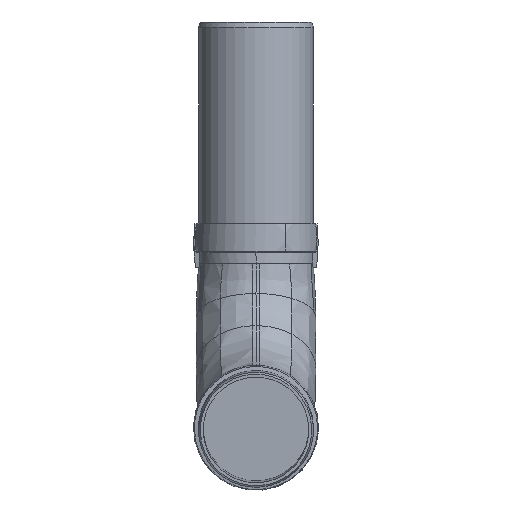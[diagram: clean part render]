
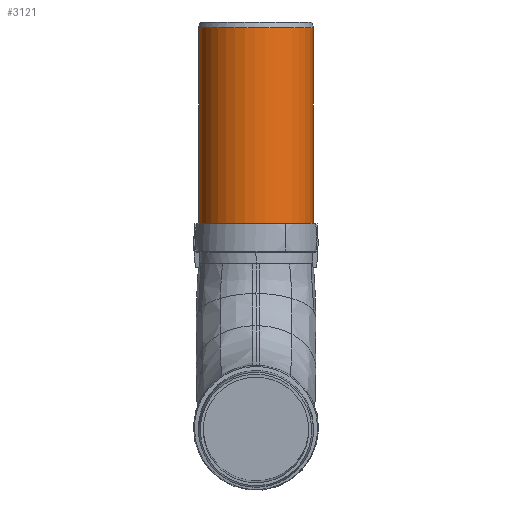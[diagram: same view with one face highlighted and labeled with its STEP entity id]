
A CAD part, front view. The second image highlights one B-rep face of the part: STEP entity #3121.
In plain terms, the highlighted cylindrical face has radius 55.1 mm (diameter 110.2 mm), a full revolution.
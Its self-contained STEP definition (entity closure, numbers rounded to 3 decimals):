
#25=CYLINDRICAL_SURFACE('',#3427,55.1);
#110=LINE('',#10713,#149);
#149=VECTOR('',#3916,55.1);
#602=FACE_OUTER_BOUND('',#779,.T.);
#779=EDGE_LOOP('',(#2358,#2359,#2360,#2361));
#886=CIRCLE('',#3250,55.1);
#895=CIRCLE('',#3263,55.1);
#1093=VERTEX_POINT('',#4823);
#1125=VERTEX_POINT('',#5808);
#1417=EDGE_CURVE('',#1093,#1093,#886,.T.);
#1458=EDGE_CURVE('',#1125,#1125,#895,.T.);
#1715=EDGE_CURVE('',#1093,#1125,#110,.T.);
#2358=ORIENTED_EDGE('',*,*,#1417,.F.);
#2359=ORIENTED_EDGE('',*,*,#1715,.T.);
#2360=ORIENTED_EDGE('',*,*,#1458,.T.);
#2361=ORIENTED_EDGE('',*,*,#1715,.F.);
#3121=ADVANCED_FACE('',(#602),#25,.T.);
#3250=AXIS2_PLACEMENT_3D('',#4824,#3529,#3530);
#3263=AXIS2_PLACEMENT_3D('',#5810,#3562,#3563);
#3427=AXIS2_PLACEMENT_3D('',#10712,#3914,#3915);
#3529=DIRECTION('center_axis',(0.,0.,1.));
#3530=DIRECTION('ref_axis',(-0.479,0.878,0.));
#3562=DIRECTION('center_axis',(0.,0.,1.));
#3563=DIRECTION('ref_axis',(-0.479,0.878,0.));
#3914=DIRECTION('center_axis',(0.,0.,1.));
#3915=DIRECTION('ref_axis',(-0.479,0.878,0.));
#3916=DIRECTION('',(0.,0.,-1.));
#4823=CARTESIAN_POINT('',(26.416,-48.355,375.5));
#4824=CARTESIAN_POINT('Origin',(0.,0.,375.5));
#5808=CARTESIAN_POINT('',(26.416,-48.355,188.));
#5810=CARTESIAN_POINT('Origin',(0.,0.,188.));
#10712=CARTESIAN_POINT('Origin',(0.,0.,270.5));
#10713=CARTESIAN_POINT('',(26.416,-48.355,270.5));
